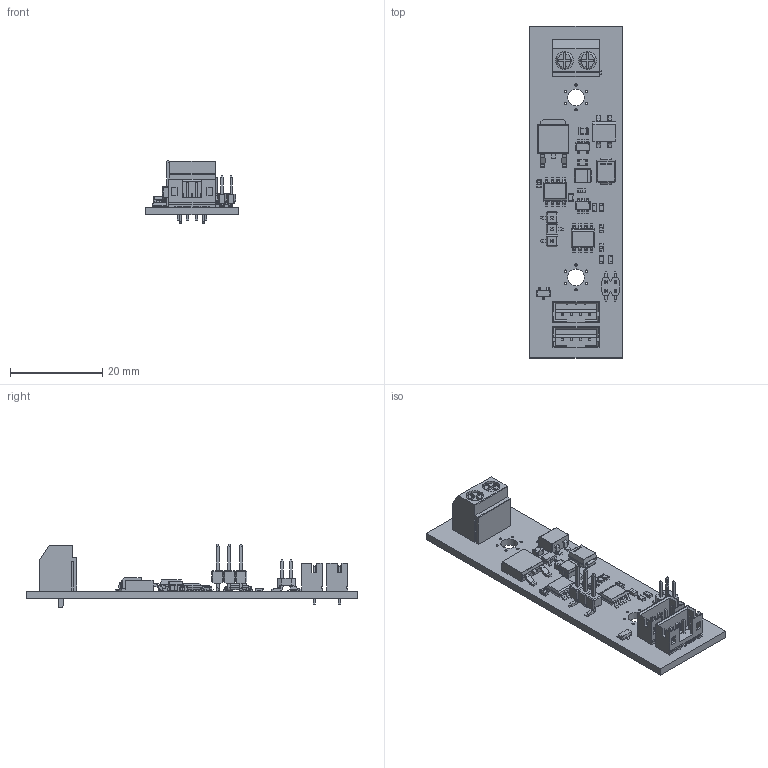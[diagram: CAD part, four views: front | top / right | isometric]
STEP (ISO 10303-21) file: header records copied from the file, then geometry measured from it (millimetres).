
FILE_DESCRIPTION(('Open CASCADE Model'),'2;1');
FILE_NAME('Open CASCADE Shape Model','2026-07-18T10:45:54',('Author'),( 'Open CASCADE'),'Open CASCADE STEP processor 6.8','Open CASCADE 6.8' ,'Unknown');
FILE_SCHEMA(('AUTOMOTIVE_DESIGN { 1 0 10303 214 1 1 1 1 }'));
Length unit declared in the file: millimetre
Products named in the file (44): PCB; Board; U4; SN75176BDR; U3; U2; MCP4725; U1; TPS783XXDDC; R6; MCR03; R5; R4; R3; R2; Q2; MJD44H11; Q1; FDN306P; J4; 112504ST; J3; DT-126VP-02P; J1; D3; SMBJP6KE39A; C7; GRM188; C6; GRM21B; C5; C3; C2; C1; D2; MBxS; C4; B45196H-B; J2; CH71042M100-0P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
Assembly tree (56 placements, depth 4):
  PCB
    Board
    U4
      SN75176BDR
    U3
      SN75176BDR
    U2
      MCP4725
    U1
      TPS783XXDDC
    R6
      MCR03
    R5
      MCR03
    R4
      MCR03
    R3
      MCR03
    R2
      MCR03
    Q2
      MJD44H11
    Q1
      FDN306P
    J4
      112504ST
    J3
      DT-126VP-02P
    J1
      112504ST
    D3
      SMBJP6KE39A
    C7
      GRM188
    C6
      GRM21B
    C5
      GRM21B
    C3
      GRM188
    C2
      GRM188
    C1
      GRM188
    D2
      MBxS
    C4
      B45196H-B
    J2
      CH71042M100-0P
        12P_4
        SMT_PIN-PC  x4
    J5
      pin_header_1x3_smd
Bounding box: 20 x 72 x 13.76 mm (x, y, z)
Volume: 3550.3 mm3; surface area: 6391.1 mm2
Topology: 32 solids, 47 shells, 3138 faces, 7666 edges, 4513 vertices
Faces by surface type: plane 1560, cylinder 1059, torus 300, sphere 172, bspline 47
Full cylindrical faces by diameter (mm): 0.5 x12, 0.85 x8, 1.5 x2, 3.6 x2
Entity records: 79558 total; most frequent: CARTESIAN_POINT 13246, DIRECTION 11107, ORIENTED_EDGE 10606, EDGE_CURVE 5327, AXIS2_PLACEMENT_3D 3864, LINE 3379, VECTOR 3379, VERTEX_POINT 3205
